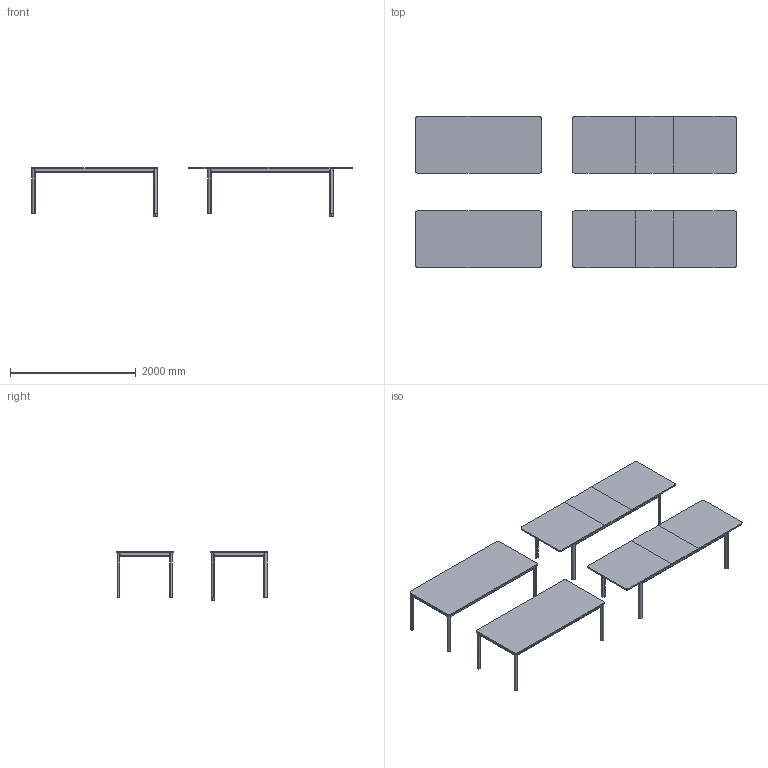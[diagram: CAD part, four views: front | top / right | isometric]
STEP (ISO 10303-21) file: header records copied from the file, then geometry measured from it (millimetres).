
FILE_DESCRIPTION(/* description */ (''),/* implementation_level */ '2;1');
FILE_NAME(/* name */ 'N8_200AZ_',/* time_stamp */ '2025-10-20T18:08:09+02:00',/* author */ (''),/* organization */ (''),/* preprocessor_version */ 'ST-DEVELOPER v16.5',/* originating_system */ 'Rhino 7.38',/* authorisation */ '');
FILE_SCHEMA (('AUTOMOTIVE_DESIGN_CC2'));
Length unit declared in the file: millimetre
Products named in the file (1): Document
Bounding box: 5094.01 x 2400 x 780.03 mm (x, y, z)
Volume: 227084773.2 mm3; surface area: 22564711.3 mm2
Topology: 56 solids, 56 shells, 696 faces, 1793 edges, 1209 vertices
Faces by surface type: bspline 696
Entity records: 50043 total; most frequent: CARTESIAN_POINT 26484, B_SPLINE_CURVE_WITH_KNOTS 4137, ORIENTED_EDGE 3248, PCURVE 3248, DEFINITIONAL_REPRESENTATION 3248, SURFACE_CURVE 1624, EDGE_CURVE 1624, VERTEX_POINT 1040
